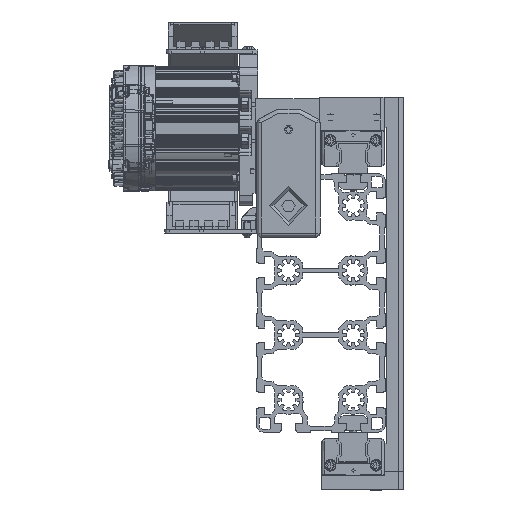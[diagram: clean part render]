
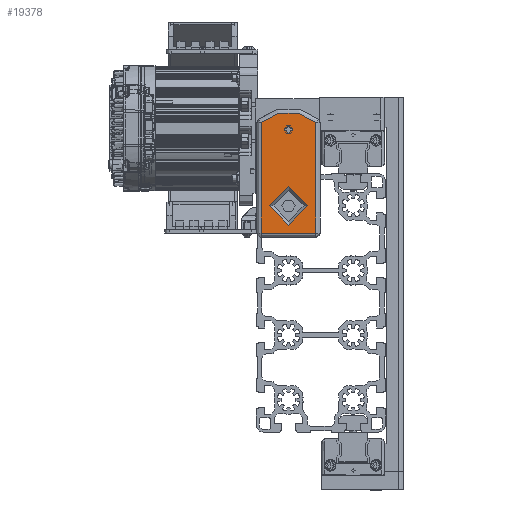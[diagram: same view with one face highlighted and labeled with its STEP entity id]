
A CAD part, front view. The second image highlights one B-rep face of the part: STEP entity #19378.
In plain terms, the highlighted planar face has unit normal (0, -1, 0) as drawn and (1, 0, 0) by its records, which use the part's own axes.
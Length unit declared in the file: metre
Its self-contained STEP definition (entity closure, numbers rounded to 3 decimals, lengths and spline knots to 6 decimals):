
#19378 = ADVANCED_FACE( '', ( #40506, #40507, #40508 ), #40509, .T. );
#40506 = FACE_BOUND( '', #106555, .T. );
#40507 = FACE_OUTER_BOUND( '', #106556, .T. );
#40508 = FACE_BOUND( '', #106557, .T. );
#40509 = PLANE( '', #106558 );
#106555 = EDGE_LOOP( '', ( #179670 ) );
#106556 = EDGE_LOOP( '', ( #179671, #179672, #179673, #179674 ) );
#106557 = EDGE_LOOP( '', ( #179675 ) );
#106558 = AXIS2_PLACEMENT_3D( '', #179676, #179677, #179678 );
#179670 = ORIENTED_EDGE( '', *, *, #221249, .T. );
#179671 = ORIENTED_EDGE( '', *, *, #218855, .T. );
#179672 = ORIENTED_EDGE( '', *, *, #221327, .T. );
#179673 = ORIENTED_EDGE( '', *, *, #221328, .T. );
#179674 = ORIENTED_EDGE( '', *, *, #205698, .T. );
#179675 = ORIENTED_EDGE( '', *, *, #204231, .F. );
#179676 = CARTESIAN_POINT( '', ( 0.00144, -0.022, 0.05928 ) );
#179677 = DIRECTION( '', ( 1., 0., 0. ) );
#179678 = DIRECTION( '', ( 0., 0., -1. ) );
#204231 = EDGE_CURVE( '', #230156, #230156, #230157, .T. );
#205698 = EDGE_CURVE( '', #232716, #232714, #232717, .T. );
#218855 = EDGE_CURVE( '', #232714, #253070, #253072, .T. );
#221249 = EDGE_CURVE( '', #256184, #256184, #256185, .T. );
#221327 = EDGE_CURVE( '', #253070, #230338, #256276, .T. );
#221328 = EDGE_CURVE( '', #230338, #232716, #256277, .T. );
#230156 = VERTEX_POINT( '', #270546 );
#230157 = CIRCLE( '', #270547, 0.01344 );
#230338 = VERTEX_POINT( '', #271016 );
#232714 = VERTEX_POINT( '', #277273 );
#232716 = VERTEX_POINT( '', #277275 );
#232717 = LINE( '', #277276, #277277 );
#253070 = VERTEX_POINT( '', #329848 );
#253072 = LINE( '', #329850, #329851 );
#256184 = VERTEX_POINT( '', #338154 );
#256185 = CIRCLE( '', #338155, 0.003 );
#256276 = LINE( '', #338437, #338438 );
#256277 = CIRCLE( '', #338439, 0.02875 );
#270546 = CARTESIAN_POINT( '', ( 0.00144, 0., -0.01344 ) );
#270547 = AXIS2_PLACEMENT_3D( '', #355140, #355141, #355142 );
#271016 = CARTESIAN_POINT( '', ( 0.00144, 0.019, 0.057964 ) );
#277273 = CARTESIAN_POINT( '', ( 0.00144, -0.019, -0.019 ) );
#277275 = CARTESIAN_POINT( '', ( 0.00144, -0.019, 0.057964 ) );
#277276 = CARTESIAN_POINT( '', ( 0.00144, -0.019, -0.019 ) );
#277277 = VECTOR( '', #357065, 1. );
#329848 = CARTESIAN_POINT( '', ( 0.00144, 0.019, -0.019 ) );
#329850 = CARTESIAN_POINT( '', ( 0.00144, 0.019, -0.019 ) );
#329851 = VECTOR( '', #374267, 1. );
#338154 = CARTESIAN_POINT( '', ( 0.00144, 0., 0.05593 ) );
#338155 = AXIS2_PLACEMENT_3D( '', #376889, #376890, #376891 );
#338437 = CARTESIAN_POINT( '', ( 0.00144, 0.019, 0.057964 ) );
#338438 = VECTOR( '', #376959, 1. );
#338439 = AXIS2_PLACEMENT_3D( '', #376960, #376961, #376962 );
#355140 = CARTESIAN_POINT( '', ( 0.00144, 0., 0. ) );
#355141 = DIRECTION( '', ( 1., 0., 0. ) );
#355142 = DIRECTION( '', ( 0., 0., -1. ) );
#357065 = DIRECTION( '', ( 0., 0., -1. ) );
#374267 = DIRECTION( '', ( 0., 1., 0. ) );
#376889 = CARTESIAN_POINT( '', ( 0.00144, 0., 0.05293 ) );
#376890 = DIRECTION( '', ( -1., 0., 0. ) );
#376891 = DIRECTION( '', ( 0., 0., 1. ) );
#376959 = DIRECTION( '', ( 0., 0., 1. ) );
#376960 = CARTESIAN_POINT( '', ( 0.00144, 0., 0.036388 ) );
#376961 = DIRECTION( '', ( 1., 0., 0. ) );
#376962 = DIRECTION( '', ( 0., 0., -1. ) );
